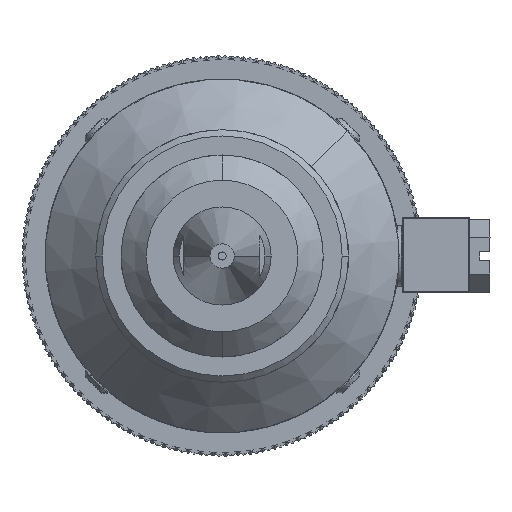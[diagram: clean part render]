
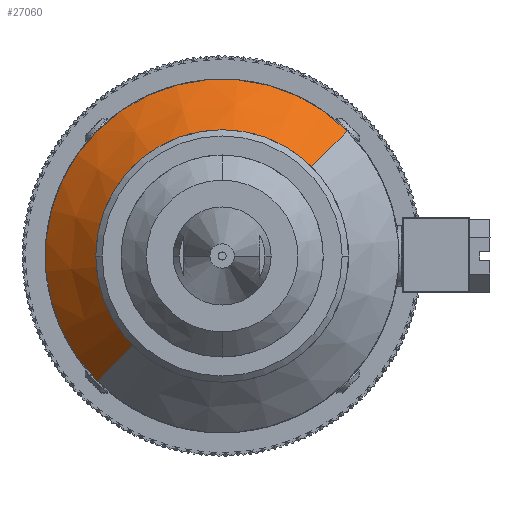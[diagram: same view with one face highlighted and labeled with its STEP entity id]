
A CAD part, front view. The second image highlights one B-rep face of the part: STEP entity #27060.
In plain terms, the highlighted conical face has half-angle 45 degrees and reference radius 15.875 mm.
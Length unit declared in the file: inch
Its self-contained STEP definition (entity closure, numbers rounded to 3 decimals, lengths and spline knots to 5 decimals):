
#882 = CIRCLE ( 'NONE', #44744, 0.875 ) ;
#3450 = ORIENTED_EDGE ( 'NONE', *, *, #9790, .T. ) ;
#5505 = CARTESIAN_POINT ( 'NONE',  ( 0.01844, 0.48629, -0.00073 ) ) ;
#9790 = EDGE_CURVE ( 'NONE', #31028, #72583, #882, .T. ) ;
#11969 = FACE_OUTER_BOUND ( 'NONE', #92071, .T. ) ;
#21049 = LINE ( 'NONE', #29233, #54985 ) ;
#22016 = EDGE_CURVE ( 'NONE', #83187, #141451, #55730, .T. ) ;
#27060 = ADVANCED_FACE ( 'NONE', ( #11969 ), #77765, .T. ) ;
#29233 = CARTESIAN_POINT ( 'NONE',  ( -0.4235, 0.48629, -0.44267 ) ) ;
#29974 = DIRECTION ( 'NONE',  ( -0.707, 0., -0.707 ) ) ;
#31028 = VERTEX_POINT ( 'NONE', #140614 ) ;
#43350 = CARTESIAN_POINT ( 'NONE',  ( -0.4235, 0.48629, -0.44267 ) ) ;
#43392 = EDGE_CURVE ( 'NONE', #141451, #72583, #21049, .T. ) ;
#44283 = AXIS2_PLACEMENT_3D ( 'NONE', #5505, #118054, #29974 ) ;
#44744 = AXIS2_PLACEMENT_3D ( 'NONE', #146015, #71762, #146566 ) ;
#54985 = VECTOR ( 'NONE', #156529, 39.37008 ) ;
#55730 = CIRCLE ( 'NONE', #125548, 0.625 ) ;
#59852 = EDGE_CURVE ( 'NONE', #83187, #31028, #109511, .T. ) ;
#69281 = DIRECTION ( 'NONE',  ( 0., -1., 0. ) ) ;
#69834 = DIRECTION ( 'NONE',  ( 0.707, 0., 0.707 ) ) ;
#70755 = DIRECTION ( 'NONE',  ( 0.5, 0.707, 0.5 ) ) ;
#71762 = DIRECTION ( 'NONE',  ( 0., -1., 0. ) ) ;
#72583 = VERTEX_POINT ( 'NONE', #162610 ) ;
#77765 = CONICAL_SURFACE ( 'NONE', #44283, 0.625, 0.785 ) ;
#80943 = CARTESIAN_POINT ( 'NONE',  ( 0.01844, 0.48629, -0.00073 ) ) ;
#83187 = VERTEX_POINT ( 'NONE', #96629 ) ;
#92071 = EDGE_LOOP ( 'NONE', ( #99852, #158487, #3450, #159473 ) ) ;
#95288 = CARTESIAN_POINT ( 'NONE',  ( 0.46039, 0.48629, 0.44121 ) ) ;
#96629 = CARTESIAN_POINT ( 'NONE',  ( 0.46039, 0.48629, 0.44121 ) ) ;
#99852 = ORIENTED_EDGE ( 'NONE', *, *, #22016, .F. ) ;
#101506 = VECTOR ( 'NONE', #70755, 39.37008 ) ;
#109511 = LINE ( 'NONE', #95288, #101506 ) ;
#118054 = DIRECTION ( 'NONE',  ( 0., 1., 0. ) ) ;
#125548 = AXIS2_PLACEMENT_3D ( 'NONE', #80943, #69281, #69834 ) ;
#140614 = CARTESIAN_POINT ( 'NONE',  ( 0.63716, 0.73629, 0.61799 ) ) ;
#141451 = VERTEX_POINT ( 'NONE', #43350 ) ;
#146015 = CARTESIAN_POINT ( 'NONE',  ( 0.01844, 0.73629, -0.00073 ) ) ;
#146566 = DIRECTION ( 'NONE',  ( 0.707, 0., 0.707 ) ) ;
#156529 = DIRECTION ( 'NONE',  ( -0.5, 0.707, -0.5 ) ) ;
#158487 = ORIENTED_EDGE ( 'NONE', *, *, #59852, .T. ) ;
#159473 = ORIENTED_EDGE ( 'NONE', *, *, #43392, .F. ) ;
#162610 = CARTESIAN_POINT ( 'NONE',  ( -0.60028, 0.73629, -0.61945 ) ) ;
